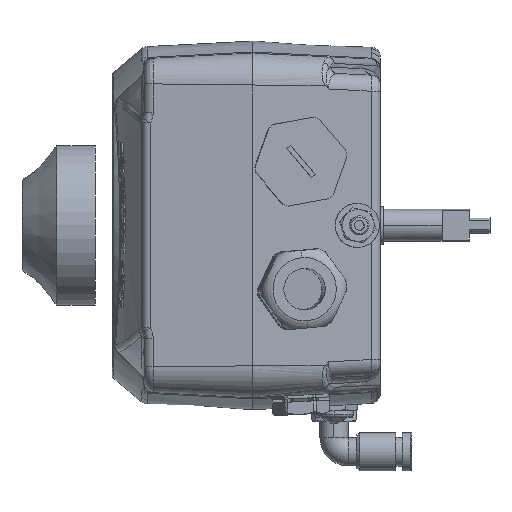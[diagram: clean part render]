
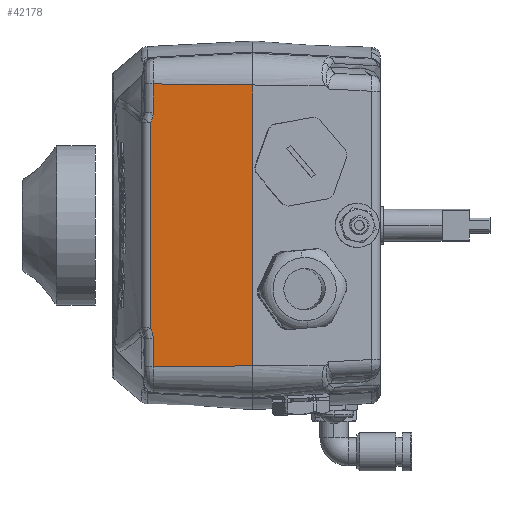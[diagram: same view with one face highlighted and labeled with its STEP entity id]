
A CAD part, left-side view. The second image highlights one B-rep face of the part: STEP entity #42178.
In plain terms, the highlighted planar face has unit normal (-0.999, 0.052, 0).
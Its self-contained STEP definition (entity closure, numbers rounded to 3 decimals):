
#55 = CARTESIAN_POINT ( 'NONE',  ( -124.809, 10.507, -44.349 ) ) ;
#76 = CARTESIAN_POINT ( 'NONE',  ( -124.762, 11.403, -32.135 ) ) ;
#381 = EDGE_CURVE ( 'NONE', #11315, #22719, #34716, .T. ) ;
#1049 = ORIENTED_EDGE ( 'NONE', *, *, #3524, .T. ) ;
#3482 = CARTESIAN_POINT ( 'NONE',  ( -125.352, 0.143, 44.651 ) ) ;
#3524 = EDGE_CURVE ( 'NONE', #29285, #33413, #9515, .T. ) ;
#3547 = CARTESIAN_POINT ( 'NONE',  ( -124.809, 10.507, -44.349 ) ) ;
#3976 = CARTESIAN_POINT ( 'NONE',  ( -126.442, -20.65, 44.015 ) ) ;
#3983 = CARTESIAN_POINT ( 'NONE',  ( -124.809, 10.507, -35.511 ) ) ;
#3996 = CARTESIAN_POINT ( 'NONE',  ( -124.809, 10.507, -35.511 ) ) ;
#4179 = CARTESIAN_POINT ( 'NONE',  ( -124.805, 10.582, -34.337 ) ) ;
#4335 = ORIENTED_EDGE ( 'NONE', *, *, #14745, .T. ) ;
#4731 = CARTESIAN_POINT ( 'NONE',  ( -124.777, 11.124, 32.657 ) ) ;
#5005 = DIRECTION ( 'NONE',  ( 0., 0., -1. ) ) ;
#6269 = EDGE_CURVE ( 'NONE', #29285, #31810, #15327, .T. ) ;
#6341 = DIRECTION ( 'NONE',  ( 0., 0., -1. ) ) ;
#6670 = CARTESIAN_POINT ( 'NONE',  ( -124.762, 11.403, 32.135 ) ) ;
#8079 = CARTESIAN_POINT ( 'NONE',  ( -124.809, 10.507, -49.371 ) ) ;
#8726 = FACE_OUTER_BOUND ( 'NONE', #35121, .T. ) ;
#9515 = B_SPLINE_CURVE_WITH_KNOTS ( 'NONE', 3,
 ( #34361, #41882, #3482, #18785 ),
 .UNSPECIFIED., .F., .F.,
 ( 4, 4 ),
 ( 0.001, 0.032 ),
 .UNSPECIFIED. ) ;
#10639 = EDGE_CURVE ( 'NONE', #33413, #30741, #45949, .T. ) ;
#11315 = VERTEX_POINT ( 'NONE', #6670 ) ;
#11812 = CARTESIAN_POINT ( 'NONE',  ( -125.899, -10.295, -43.527 ) ) ;
#11831 = CARTESIAN_POINT ( 'NONE',  ( -124.788, 10.9, -33.203 ) ) ;
#12716 = CARTESIAN_POINT ( 'NONE',  ( -124.788, 10.899, 33.204 ) ) ;
#14090 = B_SPLINE_CURVE_WITH_KNOTS ( 'NONE', 3,
 ( #47015, #23521, #42953, #31500, #12716, #4731, #15732, #31830 ),
 .UNSPECIFIED., .F., .F.,
 ( 4, 2, 2, 4 ),
 ( 0., 0.002, 0.003, 0.004 ),
 .UNSPECIFIED. ) ;
#14745 = EDGE_CURVE ( 'NONE', #22719, #25954, #39837, .T. ) ;
#15327 = LINE ( 'NONE', #38135, #38497 ) ;
#15704 = CARTESIAN_POINT ( 'NONE',  ( -124.77, 11.254, -32.391 ) ) ;
#15732 = CARTESIAN_POINT ( 'NONE',  ( -124.77, 11.254, 32.391 ) ) ;
#16078 = EDGE_CURVE ( 'NONE', #25954, #48699, #40460, .T. ) ;
#17540 = ORIENTED_EDGE ( 'NONE', *, *, #29236, .T. ) ;
#17672 = CARTESIAN_POINT ( 'NONE',  ( -124.809, 10.507, 54. ) ) ;
#17756 = VECTOR ( 'NONE', #5005, 1000. ) ;
#18785 = CARTESIAN_POINT ( 'NONE',  ( -124.809, 10.507, 44.349 ) ) ;
#19209 = VECTOR ( 'NONE', #24103, 1000. ) ;
#19774 = CARTESIAN_POINT ( 'NONE',  ( -125.352, 0.143, -44.651 ) ) ;
#20573 = ORIENTED_EDGE ( 'NONE', *, *, #16078, .T. ) ;
#20719 = CARTESIAN_POINT ( 'NONE',  ( -124.762, 11.403, -32.135 ) ) ;
#21217 = DIRECTION ( 'NONE',  ( -0.999, 0.052, 0. ) ) ;
#22719 = VERTEX_POINT ( 'NONE', #20719 ) ;
#23447 = CARTESIAN_POINT ( 'NONE',  ( -126.442, -20.65, -44.015 ) ) ;
#23521 = CARTESIAN_POINT ( 'NONE',  ( -124.809, 10.507, 34.917 ) ) ;
#23661 = CARTESIAN_POINT ( 'NONE',  ( -124.777, 11.124, -32.656 ) ) ;
#24103 = DIRECTION ( 'NONE',  ( 0., 0., -1. ) ) ;
#25117 = ORIENTED_EDGE ( 'NONE', *, *, #381, .T. ) ;
#25954 = VERTEX_POINT ( 'NONE', #3983 ) ;
#27068 = CARTESIAN_POINT ( 'NONE',  ( -124.809, 10.507, -34.918 ) ) ;
#29236 = EDGE_CURVE ( 'NONE', #48699, #31810, #42996, .T. ) ;
#29285 = VERTEX_POINT ( 'NONE', #3976 ) ;
#30741 = VERTEX_POINT ( 'NONE', #34099 ) ;
#31500 = CARTESIAN_POINT ( 'NONE',  ( -124.793, 10.805, 33.486 ) ) ;
#31810 = VERTEX_POINT ( 'NONE', #23447 ) ;
#31830 = CARTESIAN_POINT ( 'NONE',  ( -124.762, 11.403, 32.135 ) ) ;
#33413 = VERTEX_POINT ( 'NONE', #38780 ) ;
#34099 = CARTESIAN_POINT ( 'NONE',  ( -124.809, 10.507, 35.511 ) ) ;
#34361 = CARTESIAN_POINT ( 'NONE',  ( -126.442, -20.65, 44.015 ) ) ;
#34406 = ORIENTED_EDGE ( 'NONE', *, *, #39079, .T. ) ;
#34716 = LINE ( 'NONE', #44074, #17756 ) ;
#35121 = EDGE_LOOP ( 'NONE', ( #1049, #36640, #34406, #25117, #4335, #20573, #17540, #40093 ) ) ;
#36640 = ORIENTED_EDGE ( 'NONE', *, *, #10639, .T. ) ;
#37177 = DIRECTION ( 'NONE',  ( -0.052, -0.999, 0. ) ) ;
#38135 = CARTESIAN_POINT ( 'NONE',  ( -126.442, -20.65, 54. ) ) ;
#38497 = VECTOR ( 'NONE', #45817, 1000. ) ;
#38780 = CARTESIAN_POINT ( 'NONE',  ( -124.809, 10.507, 44.349 ) ) ;
#39079 = EDGE_CURVE ( 'NONE', #30741, #11315, #14090, .T. ) ;
#39837 = B_SPLINE_CURVE_WITH_KNOTS ( 'NONE', 3,
 ( #76, #15704, #23661, #11831, #42925, #4179, #27068, #3996 ),
 .UNSPECIFIED., .F., .F.,
 ( 4, 2, 2, 4 ),
 ( 0., 0.001, 0.002, 0.004 ),
 .UNSPECIFIED. ) ;
#40093 = ORIENTED_EDGE ( 'NONE', *, *, #6269, .F. ) ;
#40460 = LINE ( 'NONE', #8079, #19209 ) ;
#40923 = PLANE ( 'NONE',  #48442 ) ;
#41882 = CARTESIAN_POINT ( 'NONE',  ( -125.899, -10.295, 43.527 ) ) ;
#42178 = ADVANCED_FACE ( 'NONE', ( #8726 ), #40923, .T. ) ;
#42213 = VECTOR ( 'NONE', #6341, 1000. ) ;
#42925 = CARTESIAN_POINT ( 'NONE',  ( -124.793, 10.806, -33.485 ) ) ;
#42953 = CARTESIAN_POINT ( 'NONE',  ( -124.805, 10.582, 34.337 ) ) ;
#42996 = B_SPLINE_CURVE_WITH_KNOTS ( 'NONE', 3,
 ( #55, #19774, #11812, #46962 ),
 .UNSPECIFIED., .F., .F.,
 ( 4, 4 ),
 ( -0.026, 0.005 ),
 .UNSPECIFIED. ) ;
#44074 = CARTESIAN_POINT ( 'NONE',  ( -124.762, 11.403, 54. ) ) ;
#44365 = CARTESIAN_POINT ( 'NONE',  ( -126.442, -20.65, 54. ) ) ;
#45817 = DIRECTION ( 'NONE',  ( 0., 0., -1. ) ) ;
#45949 = LINE ( 'NONE', #17672, #42213 ) ;
#46962 = CARTESIAN_POINT ( 'NONE',  ( -126.442, -20.65, -44.015 ) ) ;
#47015 = CARTESIAN_POINT ( 'NONE',  ( -124.809, 10.507, 35.511 ) ) ;
#48442 = AXIS2_PLACEMENT_3D ( 'NONE', #44365, #21217, #37177 ) ;
#48699 = VERTEX_POINT ( 'NONE', #3547 ) ;
